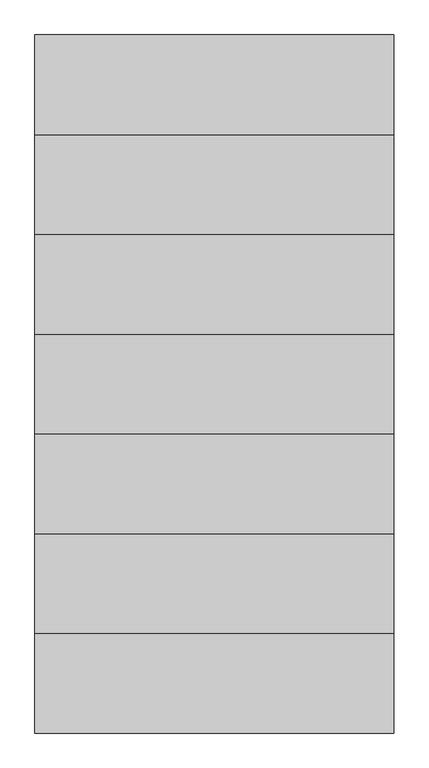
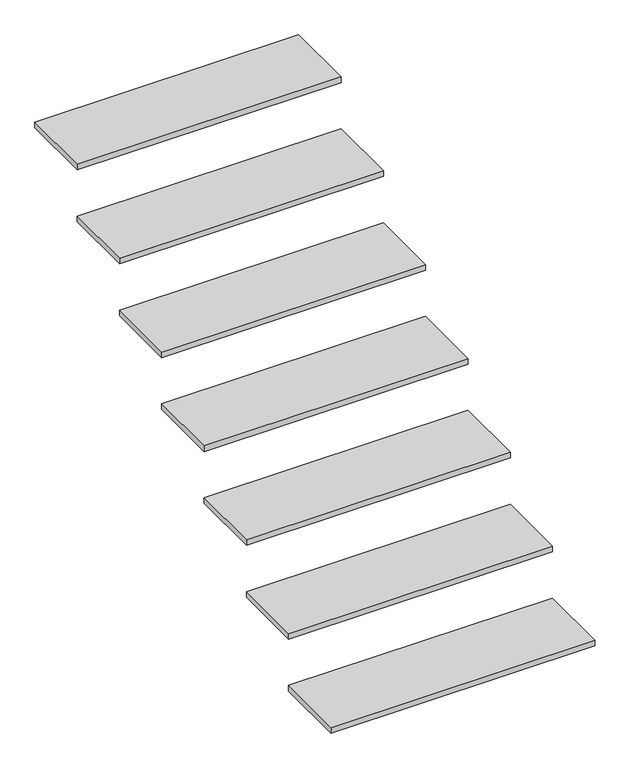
"""IFC4 building model written with IfcOpenShell, lengths in millimetres: stair flight geometry, Peldaños de acero."""

from ifc_helpers import new_model, si_unit, frame, origin, place, context, project, spatial, polyline, outline, extrude, source, transform, mapped, element, save


def stair_flight_130c18ed(model_context):
    return source(origin(), model_context, "Body", "SweptSolid", [
        extrude(outline(polyline([(-6031.0601801, -6912.6669037), (-5131.0601801, -6912.6669037), (-5131.0601801, -7162.6669037), (-6031.0601801, -7162.6669037), (-6031.0601801, -6912.6669037)])), frame((0.0, 0.0, 3466.6666667), z_axis=(0.0, 0.0, 1.0), x_axis=(1.0, 0.0, 0.0)), (0.0, 0.0, 1.0), 20.0),
        extrude(outline(polyline([(-6031.0601801, -6662.6669037), (-5131.0601801, -6662.6669037), (-5131.0601801, -6912.6669037), (-6031.0601801, -6912.6669037), (-6031.0601801, -6662.6669037)])), frame((0.0, 0.0, 3653.3333333), z_axis=(0.0, 0.0, 1.0), x_axis=(1.0, 0.0, 0.0)), (0.0, 0.0, 1.0), 20.0),
        extrude(outline(polyline([(-6031.0601801, -6412.6669037), (-5131.0601801, -6412.6669037), (-5131.0601801, -6662.6669037), (-6031.0601801, -6662.6669037), (-6031.0601801, -6412.6669037)])), frame((0.0, 0.0, 3840.0), z_axis=(0.0, 0.0, 1.0), x_axis=(1.0, 0.0, 0.0)), (0.0, 0.0, 1.0), 20.0),
        extrude(outline(polyline([(-6031.0601801, -6162.6669037), (-5131.0601801, -6162.6669037), (-5131.0601801, -6412.6669037), (-6031.0601801, -6412.6669037), (-6031.0601801, -6162.6669037)])), frame((0.0, 0.0, 4026.6666667), z_axis=(0.0, 0.0, 1.0), x_axis=(1.0, 0.0, 0.0)), (0.0, 0.0, 1.0), 20.0),
        extrude(outline(polyline([(-6031.0601801, -5912.6669037), (-5131.0601801, -5912.6669037), (-5131.0601801, -6162.6669037), (-6031.0601801, -6162.6669037), (-6031.0601801, -5912.6669037)])), frame((0.0, 0.0, 4213.3333333), z_axis=(0.0, 0.0, 1.0), x_axis=(1.0, 0.0, 0.0)), (0.0, 0.0, 1.0), 20.0),
        extrude(outline(polyline([(-6031.0601801, -5662.6669037), (-5131.0601801, -5662.6669037), (-5131.0601801, -5912.6669037), (-6031.0601801, -5912.6669037), (-6031.0601801, -5662.6669037)])), frame((0.0, 0.0, 4400.0), z_axis=(0.0, 0.0, 1.0), x_axis=(1.0, 0.0, 0.0)), (0.0, 0.0, 1.0), 20.0),
        extrude(outline(polyline([(-6031.0601801, -5412.6669037), (-5131.0601801, -5412.6669037), (-5131.0601801, -5662.6669037), (-6031.0601801, -5662.6669037), (-6031.0601801, -5412.6669037)])), frame((0.0, 0.0, 4586.6666667), z_axis=(0.0, 0.0, 1.0), x_axis=(1.0, 0.0, 0.0)), (0.0, 0.0, 1.0), 20.0),
    ])


if __name__ == "__main__":
    model = new_model("IFC4")
    model_context = context("Model", 3, world=origin())
    ifc_project = project(units=[si_unit("LENGTHUNIT", "METRE", prefix="MILLI")], contexts=[model_context])
    site = spatial("IfcSite", under=ifc_project)
    building = spatial("IfcBuilding", under=site)
    placement = place(None, origin())
    stair_flight_shape = stair_flight_130c18ed(model_context)
    element("IfcStairFlight", 1, ObjectType="Peldaños de acero", at=placement, inside=building, context=model_context, shape_type="MappedRepresentation", body=[
        mapped(stair_flight_shape, transform((0.0, 0.0, 0.0), x_axis=(1.0, 0.0, 0.0), y_axis=(0.0, 1.0, 0.0), z_axis=(0.0, 0.0, 1.0))),
    ])
    save(model, "model.ifc")
